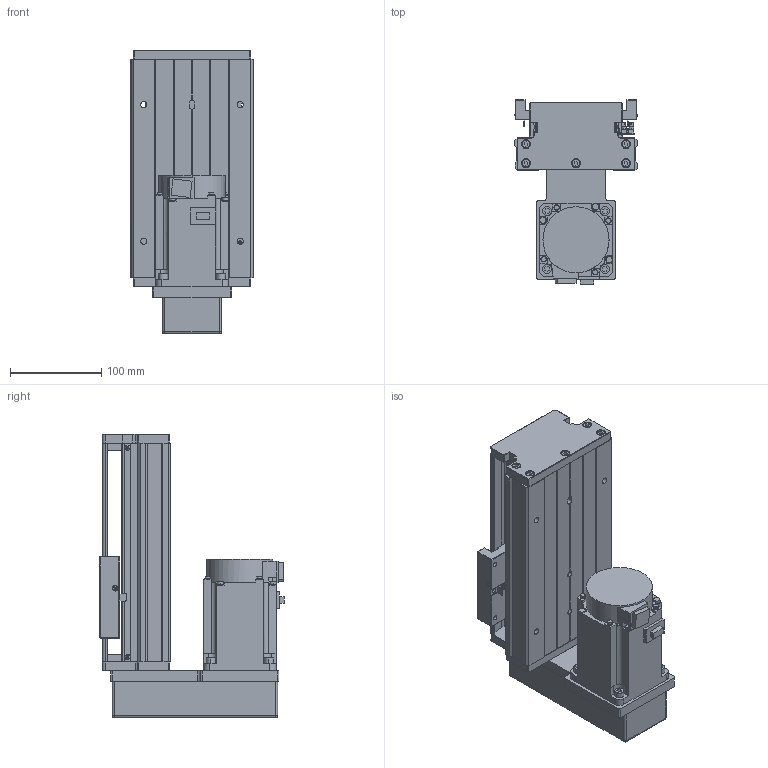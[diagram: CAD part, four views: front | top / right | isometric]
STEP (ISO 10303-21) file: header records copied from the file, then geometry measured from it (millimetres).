
FILE_DESCRIPTION (( 'STEP AP203' ), '1' );
FILE_NAME ('KTH130-100-BM-M75-C4.step', '2023-06-30T04:35:59', ( '微软用户' ), ( '微软中国' ), 'SwSTEP 2.0', 'SolidWorks 2020', '' );
FILE_SCHEMA (( 'CONFIG_CONTROL_DESIGN' ));
Length unit declared in the file: millimetre
Products named in the file (18): GBT70.1 M5℅16; す晦芛蹟隊 M3℅5; GBT 70.2-M3¡Á5_M3¡Á6; GBT 70.3-M3℅8; GTH14-001_100; CTHA60-017; hg-kn73j_-s100; KTH130-002_KTH130-002; EE_SX911P_R; CTHA86-015-3_CTHA86-015-4; KTH130-004; CTHA60-016; CTHA86-035; KTH130-005; GBT 70.1-M3℅5; KTH130-100-BM-M75-C4; GB1155-6X6; GBT77-2000 M3×3
Assembly tree (49 placements, depth 2):
  KTH130-100-BM-M75-C4
    GTH14-001_100
    KTH130-002_KTH130-002
    KTH130-004
    KTH130-005
    GB1155-6X6  x2
    GBT70.1 M5℅16  x10
    GBT 70.2-M3¡Á5_M3¡Á6  x4
    CTHA60-017  x3
    EE_SX911P_R  x3
    CTHA60-016  x2
    GBT 70.1-M3℅5  x6
    GBT77-2000 M3×3  x6
    す晦芛蹟隊 M3℅5  x2
    GBT 70.3-M3℅8  x4
    hg-kn73j_-s100
    CTHA86-015-3_CTHA86-015-4
    CTHA86-035
Bounding box: 135 x 202.8 x 312 mm (x, y, z)
Volume: 2908139.9 mm3; surface area: 425411.7 mm2
Topology: 52 solids, 52 shells, 2162 faces, 5244 edges, 3279 vertices
Faces by surface type: plane 1202, cylinder 606, cone 238, torus 100, sphere 16
Entity records: 39021 total; most frequent: CARTESIAN_POINT 6572, DIRECTION 6397, ORIENTED_EDGE 5992, EDGE_CURVE 2996, AXIS2_PLACEMENT_3D 2222, LINE 1953, VECTOR 1953, VERTEX_POINT 1913
